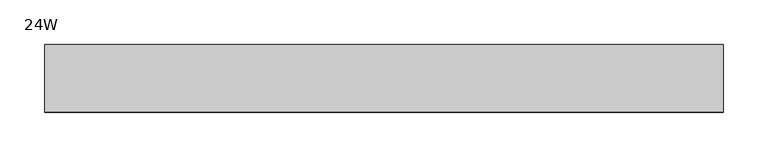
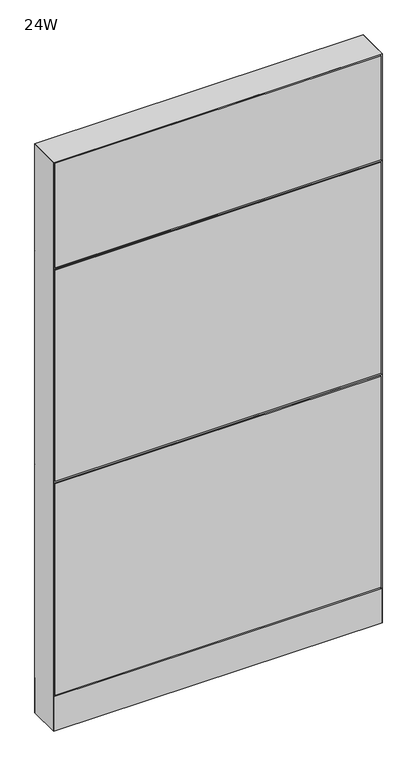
"""IFC4 building model written with IfcOpenShell, lengths in millimetres: furniture geometry, Steelcase - Montage - Frame - 55H - Enhanced Standard - Base Cavity : 24W."""

import ifcopenshell
import ifcopenshell.guid

model = None  # the IFC model being written
_history = None  # IfcOwnerHistory: only IFC2X3 demands one
_inside = {}  # id of a spatial element -> (the spatial element, [elements in it])
_under = {}  # id of a project, library or spatial element -> (it, [spatial elements below it])
_declared = {}  # id of a project -> (the project, [libraries it declares])
_typed = {}  # id of a type object -> (the type object, [elements of that type])
_made_of = {}  # id of a material, layer set ... -> (it, [elements and type objects made of it])


def new_model(schema):
    """Start an empty IFC model of exactly this schema.

    Asked for "IFC4X3", IfcOpenShell would pick the latest addendum, in which some entities
    have other attributes; the version numbers below select the first issue.
    IFC2X3 requires an IfcOwnerHistory on every rooted entity: one is made here for all.
    """
    global model, _history
    if schema == "IFC4X3":
        model = ifcopenshell.file(schema_version=(4, 3, 0, 0))
    else:
        model = ifcopenshell.file(schema=schema)
    _inside.clear()
    _under.clear()
    _declared.clear()
    _typed.clear()
    _made_of.clear()
    _history = None
    if model.schema == "IFC2X3":
        org = make("IfcOrganization", Name="unknown")
        user = make(
            "IfcPersonAndOrganization",
            ThePerson=make("IfcPerson", FamilyName="unknown"),
            TheOrganization=org,
        )
        app = make(
            "IfcApplication",
            ApplicationDeveloper=org,
            Version="unknown",
            ApplicationFullName="unknown",
            ApplicationIdentifier="unknown",
        )
        _history = make(
            "IfcOwnerHistory",
            OwningUser=user,
            OwningApplication=app,
            ChangeAction="ADDED",
            CreationDate=0,
        )
    return model


def make(cls, **values):
    """One entity of the class cls with the attributes given. An attribute that is None is left unset."""
    return model.create_entity(
        cls, **{name: value for name, value in values.items() if value is not None}
    )


def rooted(cls, **values):
    """An entity with a GlobalId (a new one), such as an element, a storey or a relation."""
    return make(cls, GlobalId=ifcopenshell.guid.new(), OwnerHistory=_history, **values)


def si_unit(unit_type, name, prefix=None):
    """IfcSIUnit, for example si_unit("LENGTHUNIT", "METRE", prefix="MILLI")."""
    return make("IfcSIUnit", UnitType=unit_type, Prefix=prefix, Name=name)


def assignment(units):
    """IfcUnitAssignment: the units of a project."""
    return None if units is None else make("IfcUnitAssignment", Units=units)


def point(xyz):
    """IfcCartesianPoint."""
    return None if xyz is None else make("IfcCartesianPoint", Coordinates=xyz)


def direction(xyz):
    """IfcDirection."""
    return None if xyz is None else make("IfcDirection", DirectionRatios=xyz)


def frame(location, z_axis=None, x_axis=None):
    """IfcAxis2Placement3D, a coordinate frame: its origin and axes. An axis left out is left unset."""
    return make(
        "IfcAxis2Placement3D",
        Location=point(location),
        Axis=direction(z_axis),
        RefDirection=direction(x_axis),
    )


def frame_2d(location, x_axis=None):
    """IfcAxis2Placement2D, a coordinate frame in the plane: its origin and x axis."""
    return make(
        "IfcAxis2Placement2D", Location=point(location), RefDirection=direction(x_axis)
    )


def origin():
    """The frame at (0, 0, 0) with its axes left unset."""
    return frame((0.0, 0.0, 0.0))


def origin_with_axes():
    """The frame at (0, 0, 0) with the z axis (0, 0, 1) and the x axis (1, 0, 0) written out."""
    return frame((0.0, 0.0, 0.0), z_axis=(0.0, 0.0, 1.0), x_axis=(1.0, 0.0, 0.0))


def place(relative_to, where):
    """IfcLocalPlacement: puts the frame where relative to a parent placement (None: the world)."""
    return make(
        "IfcLocalPlacement", PlacementRelTo=relative_to, RelativePlacement=where
    )


def context(
    kind, dimensions, precision=None, world=None, true_north=None, identifier=None
):
    """IfcGeometricRepresentationContext, for example the 3D "Model" context."""
    return make(
        "IfcGeometricRepresentationContext",
        ContextIdentifier=identifier,
        ContextType=kind,
        CoordinateSpaceDimension=dimensions,
        Precision=precision,
        WorldCoordinateSystem=world,
        TrueNorth=true_north,
    )


def project(units=None, contexts=None):
    """IfcProject with its units and contexts."""
    return rooted(
        "IfcProject",
        Name="project",
        RepresentationContexts=contexts,
        UnitsInContext=assignment(units),
    )


def spatial(cls, under=None, at=None, **own):
    """A site, building, storey or space (cls), placed at a placement, below another one or the project."""
    s = rooted(cls, ObjectPlacement=at, **own)
    if under is not None:
        _under.setdefault(under.id(), (under, []))[1].append(s)
    return s


def polyline(points):
    """IfcPolyline through the points."""
    return make("IfcPolyline", Points=[point(p) for p in points])


def circle_curve(where, radius):
    """IfcCircle in the frame where."""
    return make("IfcCircle", Position=where, Radius=radius)


def trimmed(basis, trim1, trim2, sense, master):
    """IfcTrimmedCurve: the piece of a basis curve between two trims."""
    return make(
        "IfcTrimmedCurve",
        BasisCurve=basis,
        Trim1=trim1,
        Trim2=trim2,
        SenseAgreement=sense,
        MasterRepresentation=master,
    )


def segment(curve, same_sense, transition):
    """IfcCompositeCurveSegment."""
    return make(
        "IfcCompositeCurveSegment",
        Transition=transition,
        SameSense=same_sense,
        ParentCurve=curve,
    )


def composite_curve(segments, self_intersect=None):
    """IfcCompositeCurve: segments joined end to end."""
    return make("IfcCompositeCurve", Segments=segments, SelfIntersect=self_intersect)


def outline(outer, holes=None, kind="AREA"):
    """IfcArbitraryClosedProfileDef: a profile drawn as a closed curve; with holes, ...WithVoids."""
    if holes is None:
        return make("IfcArbitraryClosedProfileDef", ProfileType=kind, OuterCurve=outer)
    return make(
        "IfcArbitraryProfileDefWithVoids",
        ProfileType=kind,
        OuterCurve=outer,
        InnerCurves=holes,
    )


def extrude(swept, where, along, depth):
    """IfcExtrudedAreaSolid: the profile swept, set in the frame where, extruded along a direction by depth."""
    return make(
        "IfcExtrudedAreaSolid",
        SweptArea=swept,
        Position=where,
        ExtrudedDirection=direction(along),
        Depth=depth,
    )


def faces_of(points, faces, orient=None, outer=None):
    """IfcFace entities. A face is a list of loops; a loop is a list of indices into points, from 0.

    orient and outer hold one flag for each loop. By default every Orientation is true, the
    first loop of a face is its IfcFaceOuterBound and the others are IfcFaceBound.
    """
    made = []
    for i, loops in enumerate(faces):
        bounds = []
        for j, loop in enumerate(loops):
            is_outer = j == 0 if outer is None else outer[i][j]
            bounds.append(
                make(
                    "IfcFaceOuterBound" if is_outer else "IfcFaceBound",
                    Bound=make("IfcPolyLoop", Polygon=[points[k] for k in loop]),
                    Orientation=True if orient is None else orient[i][j],
                )
            )
        made.append(make("IfcFace", Bounds=bounds))
    return made


def faceted_brep(points, faces, orient=None, outer=None, voids=None):
    """IfcFacetedBrep: a solid bounded by flat faces; with voids (closed shells), ...WithVoids."""
    shared = [point(p) for p in points]
    hull = make("IfcClosedShell", CfsFaces=faces_of(shared, faces, orient, outer))
    if voids is None:
        return make("IfcFacetedBrep", Outer=hull)
    return make(
        "IfcFacetedBrepWithVoids",
        Outer=hull,
        Voids=[
            make(cls, CfsFaces=faces_of(shared, fs, o, b)) for cls, fs, o, b in voids
        ],
    )


def shape(context_of_items, identifier, shape_type, items):
    """IfcShapeRepresentation: the items that make up one representation, for example the "Body"."""
    return make(
        "IfcShapeRepresentation",
        ContextOfItems=context_of_items,
        RepresentationIdentifier=identifier,
        RepresentationType=shape_type,
        Items=items,
    )


def source(mapping_origin, context_of_items, identifier, shape_type, items):
    """IfcRepresentationMap: a shape defined once, which mapped items show again and again."""
    return make(
        "IfcRepresentationMap",
        MappingOrigin=mapping_origin,
        MappedRepresentation=shape(context_of_items, identifier, shape_type, items),
    )


def transform(
    local_origin,
    x_axis=None,
    y_axis=None,
    z_axis=None,
    scale=None,
    scale2=None,
    scale3=None,
    uniform=True,
):
    """IfcCartesianTransformationOperator3D, or its non-uniform kind. x_axis, y_axis, z_axis: its Axis1, 2, 3."""
    if uniform:
        return make(
            "IfcCartesianTransformationOperator3D",
            Axis1=direction(x_axis),
            Axis2=direction(y_axis),
            LocalOrigin=point(local_origin),
            Scale=scale,
            Axis3=direction(z_axis),
        )
    return make(
        "IfcCartesianTransformationOperator3DnonUniform",
        Axis1=direction(x_axis),
        Axis2=direction(y_axis),
        LocalOrigin=point(local_origin),
        Scale=scale,
        Axis3=direction(z_axis),
        Scale2=scale2,
        Scale3=scale3,
    )


def mapped(mapping_source, mapping_target):
    """IfcMappedItem: shows the shape of a source again, moved by a transform."""
    return make(
        "IfcMappedItem", MappingSource=mapping_source, MappingTarget=mapping_target
    )


def made_of(thing, what):
    """Note that an element or type object is made of a material, layer set ...; save() writes the relation."""
    if what is not None:
        _made_of.setdefault(what.id(), (what, []))[1].append(thing)
    return thing


def element(
    cls,
    number,
    at=None,
    inside=None,
    cuts=None,
    type_object=None,
    material=None,
    context=None,
    identifier="Body",
    shape_type=None,
    held_by="IfcProductDefinitionShape",
    body=None,
    shapes=None,
    **own,
):
    """One element of the class cls, such as IfcWall. Its Tag is "e" and its number.

    at: its placement. inside: the storey or other place that contains it. cuts: it is an
    opening in that element (IfcRelVoidsElement). A single representation is given by context,
    identifier, shape_type and body (its items); several are given by shapes. held_by: the class
    of the entity that holds the representations. save() writes the other relations.
    """
    e = rooted(cls, Tag="e%d" % number, ObjectPlacement=at, **own)
    if body is not None:
        shapes = [shape(context, identifier, shape_type, body)]
    if shapes is not None:
        e.Representation = make(held_by, Representations=shapes)
    if inside is not None:
        _inside.setdefault(inside.id(), (inside, []))[1].append(e)
    if cuts is not None:
        rooted(
            "IfcRelVoidsElement", RelatingBuildingElement=cuts, RelatedOpeningElement=e
        )
    if type_object is not None:
        _typed.setdefault(type_object.id(), (type_object, []))[1].append(e)
    return made_of(e, material)


def aggregate(whole, parts):
    """IfcRelAggregates: a whole, such as a stair, and the parts it consists of."""
    return rooted("IfcRelAggregates", RelatingObject=whole, RelatedObjects=parts)


def save(model, path):
    """Write the relations noted so far, then the file.

    IfcRelAggregates (storeys below a building ...), IfcRelContainedInSpatialStructure (elements
    in a storey), IfcRelDefinesByType, IfcRelAssociatesMaterial and IfcRelDeclares: one each for
    every whole, place, type object, material and project.
    """
    for whole, parts in _under.values():
        aggregate(whole, parts)
    for where, things in _inside.values():
        rooted(
            "IfcRelContainedInSpatialStructure",
            RelatedElements=things,
            RelatingStructure=where,
        )
    for kind, things in _typed.values():
        rooted("IfcRelDefinesByType", RelatedObjects=things, RelatingType=kind)
    for what, things in _made_of.values():
        rooted("IfcRelAssociatesMaterial", RelatedObjects=things, RelatingMaterial=what)
    for by, libraries in _declared.values():
        rooted("IfcRelDeclares", RelatingContext=by, RelatedDefinitions=libraries)
    model.write(path)


def furniture_24w_359a0155(model_context):
    return source(origin(), model_context, "Body", "SolidModel", [
        extrude(outline(polyline([(3.175, 31.7500194), (3.175, 38.1000194), (758.825, 38.1000194), (758.825, 31.7500194), (3.175, 31.7500194)])), frame((0.0, 0.0, 92.075), z_axis=(0.0, 0.0, 1.0), x_axis=(1.0, 0.0, 0.0)), (0.0, 0.0, 1.0), 517.525),
        faceted_brep([(-5.4e-06, 38.102627, 612.7750027), (6.3499917, 31.7526299, 619.1249997), (755.6500047, 31.7526299, 619.1249997), (762.0, 38.1026253, 612.7750044), (755.6500047, 31.7526299, 606.4250003), (6.3499917, 31.7526299, 606.4250003)], [[[0, 1, 2, 3]], [[3, 4, 5, 0]], [[1, 5, 4, 2]], [[0, 5, 1]], [[2, 4, 3]]]),
        faceted_brep([(-5.4e-06, 38.102627, 1136.6500027), (6.3499917, 31.7526299, 1142.9999997), (755.6500047, 31.7526299, 1142.9999997), (762.0, 38.1026253, 1136.6500044), (755.6500047, 31.7526299, 1130.3000003), (6.3499917, 31.7526299, 1130.3000003)], [[[0, 1, 2, 3]], [[3, 4, 5, 0]], [[1, 5, 4, 2]], [[0, 5, 1]], [[2, 4, 3]]]),
        extrude(outline(polyline([(3.175, 31.7500194), (3.175, 38.1000194), (758.825, 38.1000194), (758.825, 31.7500194), (3.175, 31.7500194)])), frame((0.0, 0.0, 615.95), z_axis=(0.0, 0.0, 1.0), x_axis=(1.0, 0.0, 0.0)), (0.0, 0.0, 1.0), 517.525),
        extrude(outline(polyline([(3.175, 31.7500194), (3.175, 38.1000194), (758.825, 38.1000194), (758.825, 31.7500194), (3.175, 31.7500194)])), frame((0.0, 0.0, 1139.825), z_axis=(0.0, 0.0, 1.0), x_axis=(1.0, 0.0, 0.0)), (0.0, 0.0, 1.0), 255.5875),
        extrude(outline(polyline([(3.175, -31.7500194), (758.825, -31.7500194), (758.825, -38.1000194), (3.175, -38.1000194), (3.175, -31.7500194)])), frame((0.0, 0.0, 92.075), z_axis=(0.0, 0.0, 1.0), x_axis=(1.0, 0.0, 0.0)), (0.0, 0.0, 1.0), 517.525),
        faceted_brep([(0.0, -38.1026297, 612.775), (762.0, -38.1026297, 612.775), (755.6500047, -31.7526299, 619.1249997), (6.3499917, -31.7526299, 619.1249997), (6.3499917, -31.7526299, 606.4250003), (755.6500047, -31.7526299, 606.4250003)], [[[0, 1, 2, 3]], [[1, 0, 4, 5]], [[3, 2, 5, 4]], [[0, 3, 4]], [[2, 1, 5]]]),
        faceted_brep([(0.0, -38.1026297, 1136.65), (762.0, -38.1026297, 1136.65), (755.6500047, -31.7526299, 1142.9999997), (6.3499917, -31.7526299, 1142.9999997), (6.3499917, -31.7526299, 1130.3000003), (755.6500047, -31.7526299, 1130.3000003)], [[[0, 1, 2, 3]], [[1, 0, 4, 5]], [[3, 2, 5, 4]], [[0, 3, 4]], [[2, 1, 5]]]),
        extrude(outline(polyline([(3.175, -31.7500194), (758.825, -31.7500194), (758.825, -38.1000194), (3.175, -38.1000194), (3.175, -31.7500194)])), frame((0.0, 0.0, 615.95), z_axis=(0.0, 0.0, 1.0), x_axis=(1.0, 0.0, 0.0)), (0.0, 0.0, 1.0), 517.525),
        extrude(outline(polyline([(3.175, -31.7500194), (758.825, -31.7500194), (758.825, -38.1000194), (3.175, -38.1000194), (3.175, -31.7500194)])), frame((0.0, 0.0, 1139.825), z_axis=(0.0, 0.0, 1.0), x_axis=(1.0, 0.0, 0.0)), (0.0, 0.0, 1.0), 255.5875),
        extrude(outline(polyline([(6.350003, -31.7499985), (755.649997, -31.7499985), (762.0, -38.1000015), (0.0, -38.1000015), (6.350003, -31.7499985)])), frame((0.0, 0.0, 4.064), z_axis=(0.0, 0.0, 1.0), x_axis=(1.0, 0.0, 0.0)), (0.0, 0.0, 1.0), 84.835997),
        extrude(outline(polyline([(6.3500002, 31.7500017), (0.0, 38.1000015), (762.0, 38.1000015), (755.6500002, 31.7500017), (6.3500002, 31.7500017)])), frame((0.0, 0.0, 4.064), z_axis=(0.0, 0.0, 1.0), x_axis=(1.0, 0.0, 0.0)), (0.0, 0.0, 1.0), 84.835997),
        faceted_brep([(762.0, -38.1000015, 1398.5875), (0.0, -38.1000015, 1398.5875), (6.3500484, -31.749953, 1392.2374516), (755.6499516, -31.749953, 1392.2374516), (6.3500484, 31.749953, 1392.2374516), (755.6499516, 31.749953, 1392.2374516), (0.0, 38.1000015, 1398.5875), (762.0, 38.1000015, 1398.5875)], [[[0, 1, 2, 3]], [[3, 2, 4, 5]], [[6, 7, 5, 4]], [[1, 0, 7, 6]], [[2, 1, 6, 4]], [[0, 3, 5, 7]]]),
        extrude(outline(composite_curve([segment(trimmed(circle_curve(frame_2d((44.45, 0.0)), 15.24), [point((29.21, 0.0))], [point((59.69, 0.0))], False, "CARTESIAN"), True, "CONTINUOUS"), segment(trimmed(circle_curve(frame_2d((44.45, 0.0)), 15.24), [point((59.69, 0.0))], [point((29.21, 0.0))], False, "CARTESIAN"), True, "CONTINUOUS")], self_intersect=False)), origin_with_axes(), (0.0, 0.0, 1.0), 4.064),
        extrude(outline(composite_curve([segment(trimmed(circle_curve(frame_2d((717.55, 0.0)), 15.24), [point((702.31, 0.0))], [point((732.79, 0.0))], False, "CARTESIAN"), True, "CONTINUOUS"), segment(trimmed(circle_curve(frame_2d((717.55, 0.0)), 15.24), [point((732.79, 0.0))], [point((702.31, 0.0))], False, "CARTESIAN"), True, "CONTINUOUS")], self_intersect=False)), origin_with_axes(), (0.0, 0.0, 1.0), 4.064),
        faceted_brep([(762.0, -38.1000106, 4.064), (762.0, 38.1000015, 4.064), (762.0, 38.1000015, 1398.5875), (762.0, -38.1000106, 1398.5874637), (0.0, 38.1000015, 4.064), (0.0, -38.1000015, 4.064), (0.0, -38.1000015, 1398.5875), (0.0, 38.1000015, 1398.5875), (755.6499879, 31.7500017, 606.425), (6.35, 31.7500017, 606.425), (6.3499998, 31.7500017, 619.125), (755.6499879, 31.7500017, 619.125), (6.35, -31.7499985, 619.125), (755.6499879, -31.7499985, 619.125), (6.350003, -31.7499985, 606.425), (755.6499879, -31.7499985, 606.425), (6.35, 31.7500015, 4.064), (6.35, -31.7500015, 4.064), (755.6499879, 31.7499894, 4.064), (755.6499879, -31.7499985, 4.064), (6.35, 31.7500015, 1392.2375), (6.35, -31.7500015, 1392.2375), (755.6499879, -31.7499985, 1392.2374516), (755.6499879, 31.7499895, 1392.2374516)], [[[0, 1, 2, 3]], [[4, 5, 6, 7]], [[8, 9, 10, 11]], [[11, 10, 12, 13]], [[13, 12, 14, 15]], [[9, 8, 15, 14]], [[16, 17, 5, 4]], [[18, 1, 0, 19]], [[16, 4, 7, 20, 10, 9]], [[5, 17, 14, 12, 21, 6]], [[12, 10, 20, 21]], [[17, 16, 9, 14]], [[11, 13, 22, 23]], [[18, 19, 15, 8]], [[19, 0, 3, 22, 13, 15]], [[1, 18, 8, 11, 23, 2]], [[7, 6, 21, 20]], [[3, 2, 23, 22]]]),
    ])


if __name__ == "__main__":
    model = new_model("IFC4")
    model_context = context("Model", 3, world=origin())
    ifc_project = project(units=[si_unit("LENGTHUNIT", "METRE", prefix="MILLI")], contexts=[model_context])
    site = spatial("IfcSite", under=ifc_project)
    building = spatial("IfcBuilding", under=site)
    placement = place(None, origin())
    furniture_24w_shape = furniture_24w_359a0155(model_context)
    element("IfcFurniture", 1, ObjectType="Steelcase - Montage - Frame - 55H - Enhanced Standard - Base Cavity : 24W", at=placement, inside=building, context=model_context, shape_type="MappedRepresentation", body=[
        mapped(furniture_24w_shape, transform((0.0, 0.0, 0.0), x_axis=(1.0, 0.0, 0.0), y_axis=(0.0, 1.0, 0.0), z_axis=(0.0, 0.0, 1.0))),
    ])
    save(model, "model.ifc")
